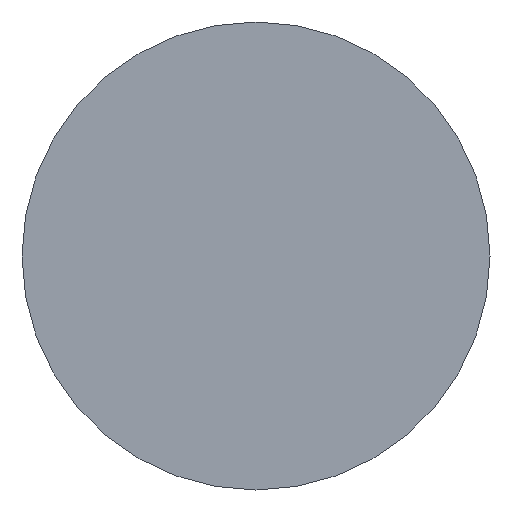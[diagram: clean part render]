
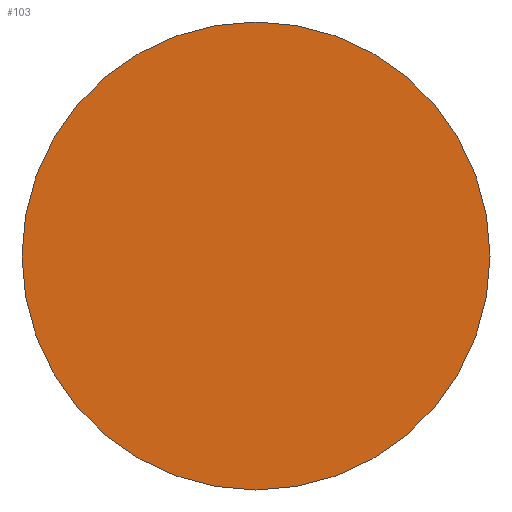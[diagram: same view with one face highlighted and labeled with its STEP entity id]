
A CAD part, front view. The second image highlights one B-rep face of the part: STEP entity #103.
In plain terms, the highlighted planar face has unit normal (0, -1, 0).
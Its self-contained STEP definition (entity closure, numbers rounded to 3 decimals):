
#103=ADVANCED_FACE('',(#155),#157,.T.);
#155=FACE_BOUND('',#156,.T.);
#156=EDGE_LOOP('',(#171));
#157=PLANE('',#158);
#158=AXIS2_PLACEMENT_3D('',#159,#160,#161);
#159=CARTESIAN_POINT('',(0.,0.,0.));
#160=DIRECTION('',(-0.,-1.,-0.));
#161=DIRECTION('',(1.,0.,0.));
#171=ORIENTED_EDGE('',*,*,#176,.T.);
#176=EDGE_CURVE('',#185,#185,#186,.T.);
#185=VERTEX_POINT('',#207);
#186=CIRCLE('',#208,40.);
#207=CARTESIAN_POINT('',(40.,0.,0.));
#208=AXIS2_PLACEMENT_3D('',#209,#210,#211);
#209=CARTESIAN_POINT('',(0.,0.,0.));
#210=DIRECTION('',(-0.,-1.,-0.));
#211=DIRECTION('',(1.,0.,0.));
